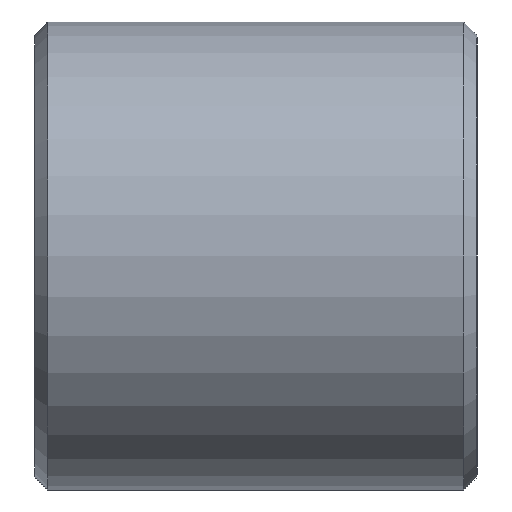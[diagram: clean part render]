
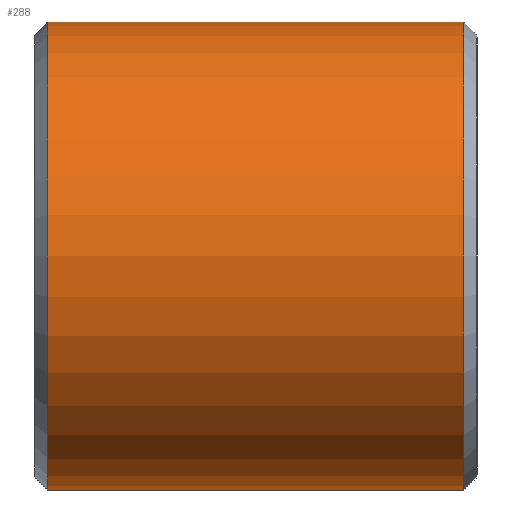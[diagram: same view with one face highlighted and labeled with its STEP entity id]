
A CAD part, left-side view. The second image highlights one B-rep face of the part: STEP entity #288.
In plain terms, the highlighted cylindrical face has radius 9 mm (diameter 18 mm), a partial arc.
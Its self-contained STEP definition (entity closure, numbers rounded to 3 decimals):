
#128 = CARTESIAN_POINT ( 'NONE',  ( 0., 17.5, 0. ) ) ;
#129 = DIRECTION ( 'NONE',  ( 0., -1., 0. ) ) ;
#130 = DIRECTION ( 'NONE',  ( 0., 0., -1. ) ) ;
#131 = CARTESIAN_POINT ( 'NONE',  ( 0., 1.5, 0. ) ) ;
#132 = DIRECTION ( 'NONE',  ( 0., 1., 0. ) ) ;
#133 = DIRECTION ( 'NONE',  ( 0., 0., 1. ) ) ;
#288 = ADVANCED_FACE ( 'NONE', ( #1291 ), #1609, .T. ) ;
#324 = AXIS2_PLACEMENT_3D ( 'NONE', #2067, #2068, #2076 ) ;
#496 = EDGE_LOOP ( 'NONE', ( #675, #676, #677, #678 ) ) ;
#582 = VERTEX_POINT ( 'NONE', #2746 ) ;
#583 = VERTEX_POINT ( 'NONE', #2747 ) ;
#586 = VERTEX_POINT ( 'NONE', #2750 ) ;
#587 = VERTEX_POINT ( 'NONE', #2751 ) ;
#675 = ORIENTED_EDGE ( 'NONE', *, *, #758, .F. ) ;
#676 = ORIENTED_EDGE ( 'NONE', *, *, #2341, .T. ) ;
#677 = ORIENTED_EDGE ( 'NONE', *, *, #759, .T. ) ;
#678 = ORIENTED_EDGE ( 'NONE', *, *, #2342, .T. ) ;
#758 = EDGE_CURVE ( 'NONE', #586, #583, #2434, .T. ) ;
#759 = EDGE_CURVE ( 'NONE', #587, #582, #2433, .T. ) ;
#1184 = AXIS2_PLACEMENT_3D ( 'NONE', #128, #129, #130 ) ;
#1185 = AXIS2_PLACEMENT_3D ( 'NONE', #131, #132, #133 ) ;
#1291 = FACE_OUTER_BOUND ( 'NONE', #496, .T. ) ;
#1609 = CYLINDRICAL_SURFACE ( 'NONE', #324, 9. ) ;
#1853 = CARTESIAN_POINT ( 'NONE',  ( 0., 0., 9. ) ) ;
#1854 = DIRECTION ( 'NONE',  ( 0., -1., 0. ) ) ;
#1855 = CARTESIAN_POINT ( 'NONE',  ( 0., 0., -9. ) ) ;
#1857 = DIRECTION ( 'NONE',  ( 0., -1., 0. ) ) ;
#2067 = CARTESIAN_POINT ( 'NONE',  ( 0., 0., 0. ) ) ;
#2068 = DIRECTION ( 'NONE',  ( 0., -1., 0. ) ) ;
#2076 = DIRECTION ( 'NONE',  ( 0., 0., -1. ) ) ;
#2341 = EDGE_CURVE ( 'NONE', #586, #587, #2533, .T. ) ;
#2342 = EDGE_CURVE ( 'NONE', #582, #583, #2534, .T. ) ;
#2433 = LINE ( 'NONE', #1855, #2437 ) ;
#2434 = LINE ( 'NONE', #1853, #2435 ) ;
#2435 = VECTOR ( 'NONE', #1854, 1000. ) ;
#2437 = VECTOR ( 'NONE', #1857, 1000. ) ;
#2533 = CIRCLE ( 'NONE', #1184, 9. ) ;
#2534 = CIRCLE ( 'NONE', #1185, 9. ) ;
#2746 = CARTESIAN_POINT ( 'NONE',  ( 0., 1.5, -9. ) ) ;
#2747 = CARTESIAN_POINT ( 'NONE',  ( 0., 1.5, 9. ) ) ;
#2750 = CARTESIAN_POINT ( 'NONE',  ( 0., 17.5, 9. ) ) ;
#2751 = CARTESIAN_POINT ( 'NONE',  ( 0., 17.5, -9. ) ) ;
